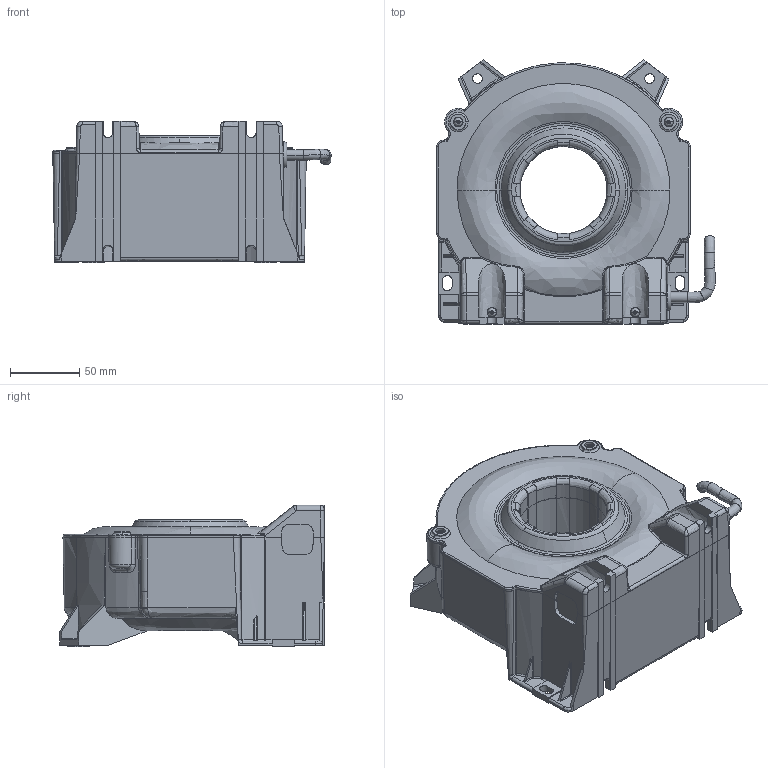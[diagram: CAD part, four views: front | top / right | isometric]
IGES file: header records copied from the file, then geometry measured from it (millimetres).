
Start section: Elysium IGES Interface
Global section: file name: U:\BLACKBOX DIVERSES\ITC_2000_head_blackbox.igs; native system: Creo Elements/Direct Modeling 17.0E  05-Feb-2012; preprocessor: Creo Element/Direct IGES_3D V2.2; author: Unknown; organization: Unknown; date: 20140722.112202; units: millimetre
Bounding box: 201.48 x 191.39 x 102.22 mm (x, y, z)
Volume: 393374.6 mm3; surface area: 314172.4 mm2
Topology: 10 solids, 10 shells, 3220 faces, 8822 edges, 5670 vertices
Faces by surface type: bspline 3220
